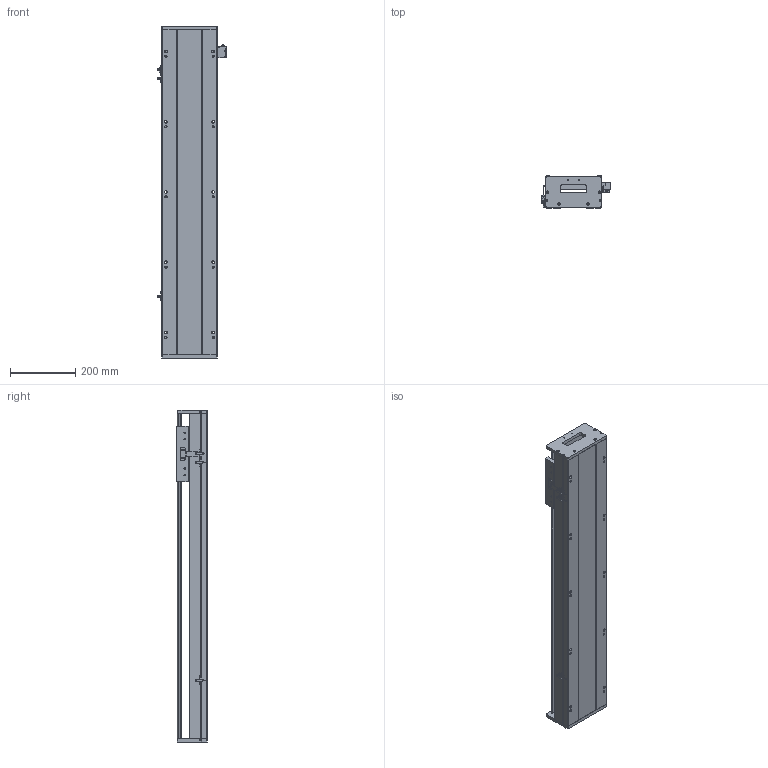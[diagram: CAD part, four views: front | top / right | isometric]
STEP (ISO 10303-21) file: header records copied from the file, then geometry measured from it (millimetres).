
FILE_DESCRIPTION (( 'STEP AP203' ), '1' );
FILE_NAME ('SKR17S-C1-S750（简）.STEP', '2022-09-29T03:05:42', ( '' ), ( '' ), 'SwSTEP 2.0', 'SolidWorks 2018', '' );
FILE_SCHEMA (( 'CONFIG_CONTROL_DESIGN' ));
Length unit declared in the file: millimetre
Products named in the file (8): EE-SX672; 感应片（SKR12S-14S-17S）; SKR17耜啣; SIKO棠掑; 棠掑假蚾輸; SKR17S-C1-S750（简）; SKR17滑台-170L（简）; SKR17菁釱-C1-S750(潠)
Assembly tree (10 placements, depth 2):
  SKR17S-C1-S750（简）
    SKR17菁釱-C1-S750(潠)
    SKR17滑台-170L（简）
    SIKO棠掑
    EE-SX672  x3
    SKR17耜啣  x2
    棠掑假蚾輸
    感应片（SKR12S-14S-17S）
Bounding box: 212.7 x 97 x 1020 mm (x, y, z)
Volume: 8189628.3 mm3; surface area: 1051347.8 mm2
Topology: 11 solids, 11 shells, 1041 faces, 2867 edges, 1846 vertices
Faces by surface type: cylinder 476, plane 453, cone 112
Entity records: 30854 total; most frequent: CARTESIAN_POINT 7721, ORIENTED_EDGE 4770, DIRECTION 4532, EDGE_CURVE 2385, AXIS2_PLACEMENT_3D 1609, VERTEX_POINT 1550, VECTOR 1314, LINE 1314
